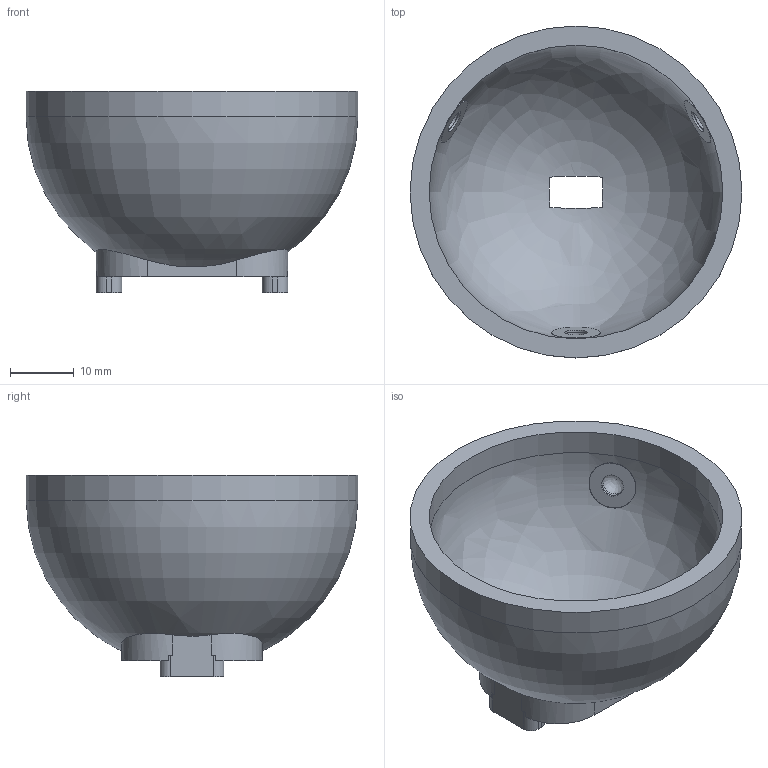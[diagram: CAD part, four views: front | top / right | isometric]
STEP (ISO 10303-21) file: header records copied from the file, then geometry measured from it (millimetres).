
FILE_DESCRIPTION(('Open CASCADE Model'),'2;1');
FILE_NAME('Open CASCADE Shape Model','2026-06-04T07:57:35',('Author'),( 'Open CASCADE'),'Open CASCADE STEP processor 7.6','Open CASCADE 7.6' ,'Unknown');
FILE_SCHEMA(('AP242_MANAGED_MODEL_BASED_3D_ENGINEERING_MIM_LF. {1 0 10303 442 1 1 4 }'));
Length unit declared in the file: millimetre
Products named in the file (1): Open CASCADE STEP translator 7.6 7
Bounding box: 52 x 52 x 31.6 mm (x, y, z)
Volume: 13572.3 mm3; surface area: 9795 mm2
Topology: 1 solids, 1 shells, 80 faces, 209 edges, 137 vertices
Faces by surface type: plane 35, cylinder 31, revolution 8, bspline 4, cone 2
Full cylindrical faces by diameter (mm): 2.05 x2, 3.57 x3, 3.572 x3, 7.57 x3, 46 x1, 52 x1
Entity records: 8672 total; most frequent: CARTESIAN_POINT 4554, DIRECTION 765, ORIENTED_EDGE 408, PCURVE 408, DEFINITIONAL_REPRESENTATION 408, LINE 403, VECTOR 403, EDGE_CURVE 204
